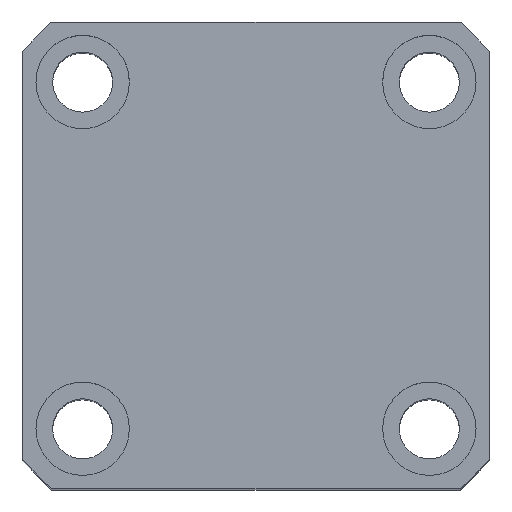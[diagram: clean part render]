
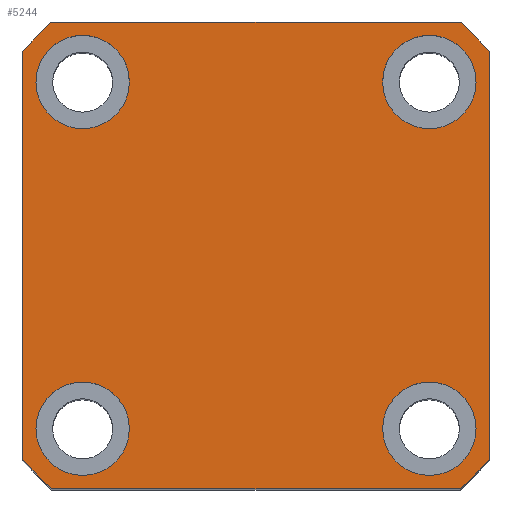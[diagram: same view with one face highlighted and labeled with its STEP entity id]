
A CAD part, top view. The second image highlights one B-rep face of the part: STEP entity #5244.
In plain terms, the highlighted planar face has unit normal (0, 0, 1).
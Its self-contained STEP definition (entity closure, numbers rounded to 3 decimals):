
#204 = ORIENTED_EDGE ( 'NONE', *, *, #13411, .F. ) ;
#652 = AXIS2_PLACEMENT_3D ( 'NONE', #951, #3151, #10570 ) ;
#663 = AXIS2_PLACEMENT_3D ( 'NONE', #7962, #1627, #9041 ) ;
#726 = CARTESIAN_POINT ( 'NONE',  ( 35., 30.615, 110. ) ) ;
#838 = DIRECTION ( 'NONE',  ( 1., 0., 0. ) ) ;
#845 = CARTESIAN_POINT ( 'NONE',  ( 30.615, -35., 110. ) ) ;
#849 = ORIENTED_EDGE ( 'NONE', *, *, #10498, .T. ) ;
#903 = CIRCLE ( 'NONE', #2556, 46.5 ) ;
#904 = DIRECTION ( 'NONE',  ( 0., 0., 1. ) ) ;
#951 = CARTESIAN_POINT ( 'NONE',  ( 0., 0., 110. ) ) ;
#1125 = VERTEX_POINT ( 'NONE', #11200 ) ;
#1141 = ORIENTED_EDGE ( 'NONE', *, *, #11758, .T. ) ;
#1166 = DIRECTION ( 'NONE',  ( 0., 0., 1. ) ) ;
#1378 = EDGE_LOOP ( 'NONE', ( #10425, #849, #1920, #10269, #1141, #12337, #13538, #8665 ) ) ;
#1489 = DIRECTION ( 'NONE',  ( -1., 0., 0. ) ) ;
#1627 = DIRECTION ( 'NONE',  ( 0., 0., 1. ) ) ;
#1692 = CARTESIAN_POINT ( 'NONE',  ( 19., 26., 110. ) ) ;
#1809 = DIRECTION ( 'NONE',  ( 0., 0., 1. ) ) ;
#1830 = CIRCLE ( 'NONE', #4391, 46.5 ) ;
#1837 = FACE_BOUND ( 'NONE', #2222, .T. ) ;
#1846 = CARTESIAN_POINT ( 'NONE',  ( 26., -26., 110. ) ) ;
#1850 = CARTESIAN_POINT ( 'NONE',  ( 0., 0., 110. ) ) ;
#1920 = ORIENTED_EDGE ( 'NONE', *, *, #9067, .T. ) ;
#2128 = VERTEX_POINT ( 'NONE', #5240 ) ;
#2222 = EDGE_LOOP ( 'NONE', ( #6417, #6752 ) ) ;
#2556 = AXIS2_PLACEMENT_3D ( 'NONE', #9270, #2922, #10354 ) ;
#2605 = LINE ( 'NONE', #8210, #10731 ) ;
#2697 = VERTEX_POINT ( 'NONE', #726 ) ;
#2767 = VERTEX_POINT ( 'NONE', #12977 ) ;
#2915 = DIRECTION ( 'NONE',  ( 1., 0., 0. ) ) ;
#2919 = DIRECTION ( 'NONE',  ( 1., 0., 0. ) ) ;
#2922 = DIRECTION ( 'NONE',  ( 0., 0., 1. ) ) ;
#2958 = AXIS2_PLACEMENT_3D ( 'NONE', #8144, #1809, #9219 ) ;
#3151 = DIRECTION ( 'NONE',  ( 0., 0., 1. ) ) ;
#3210 = EDGE_CURVE ( 'NONE', #7922, #8883, #13693, .T. ) ;
#3494 = CARTESIAN_POINT ( 'NONE',  ( 0., 0., 110. ) ) ;
#3771 = EDGE_LOOP ( 'NONE', ( #8583, #10761 ) ) ;
#3824 = EDGE_CURVE ( 'NONE', #5644, #13563, #7881, .T. ) ;
#3930 = CIRCLE ( 'NONE', #6140, 7. ) ;
#4008 = DIRECTION ( 'NONE',  ( 0., -1., 0. ) ) ;
#4212 = CARTESIAN_POINT ( 'NONE',  ( -35., -30.615, 110. ) ) ;
#4230 = DIRECTION ( 'NONE',  ( 0., 0., 1. ) ) ;
#4325 = CIRCLE ( 'NONE', #2958, 7. ) ;
#4391 = AXIS2_PLACEMENT_3D ( 'NONE', #1850, #9268, #2919 ) ;
#4534 = CARTESIAN_POINT ( 'NONE',  ( -26., 26., 110. ) ) ;
#4549 = DIRECTION ( 'NONE',  ( 1., 0., 0. ) ) ;
#4589 = ORIENTED_EDGE ( 'NONE', *, *, #5850, .F. ) ;
#4668 = FACE_BOUND ( 'NONE', #6221, .T. ) ;
#4903 = CIRCLE ( 'NONE', #12127, 7. ) ;
#5057 = ORIENTED_EDGE ( 'NONE', *, *, #8058, .F. ) ;
#5076 = VERTEX_POINT ( 'NONE', #9166 ) ;
#5240 = CARTESIAN_POINT ( 'NONE',  ( 33., 26., 110. ) ) ;
#5244 = ADVANCED_FACE ( 'NONE', ( #1837, #9995, #4668, #10314, #7124 ), #9495, .T. ) ;
#5509 = EDGE_CURVE ( 'NONE', #2767, #2697, #6655, .T. ) ;
#5581 = DIRECTION ( 'NONE',  ( 1., 0., 0. ) ) ;
#5644 = VERTEX_POINT ( 'NONE', #9006 ) ;
#5731 = CARTESIAN_POINT ( 'NONE',  ( -35., 35., 110. ) ) ;
#5749 = DIRECTION ( 'NONE',  ( 0., 0., 1. ) ) ;
#5850 = EDGE_CURVE ( 'NONE', #11735, #2128, #4325, .T. ) ;
#5870 = VECTOR ( 'NONE', #4008, 1000. ) ;
#5938 = EDGE_CURVE ( 'NONE', #8733, #6100, #1830, .T. ) ;
#6100 = VERTEX_POINT ( 'NONE', #11538 ) ;
#6140 = AXIS2_PLACEMENT_3D ( 'NONE', #1846, #9260, #2915 ) ;
#6221 = EDGE_LOOP ( 'NONE', ( #204, #4589 ) ) ;
#6325 = DIRECTION ( 'NONE',  ( 0., 1., 0. ) ) ;
#6417 = ORIENTED_EDGE ( 'NONE', *, *, #3824, .F. ) ;
#6483 = CARTESIAN_POINT ( 'NONE',  ( -33., 26., 110. ) ) ;
#6583 = VECTOR ( 'NONE', #1489, 1000. ) ;
#6655 = LINE ( 'NONE', #12012, #8811 ) ;
#6752 = ORIENTED_EDGE ( 'NONE', *, *, #8336, .F. ) ;
#7121 = AXIS2_PLACEMENT_3D ( 'NONE', #7510, #1166, #8587 ) ;
#7124 = FACE_OUTER_BOUND ( 'NONE', #1378, .T. ) ;
#7171 = DIRECTION ( 'NONE',  ( 0., 0., 1. ) ) ;
#7236 = CARTESIAN_POINT ( 'NONE',  ( 0., 0., 110. ) ) ;
#7510 = CARTESIAN_POINT ( 'NONE',  ( -26., -26., 110. ) ) ;
#7526 = CIRCLE ( 'NONE', #663, 7. ) ;
#7881 = CIRCLE ( 'NONE', #7121, 7. ) ;
#7922 = VERTEX_POINT ( 'NONE', #13533 ) ;
#7962 = CARTESIAN_POINT ( 'NONE',  ( 26., 26., 110. ) ) ;
#8025 = LINE ( 'NONE', #10373, #5870 ) ;
#8058 = EDGE_CURVE ( 'NONE', #10788, #13505, #11569, .T. ) ;
#8144 = CARTESIAN_POINT ( 'NONE',  ( 26., 26., 110. ) ) ;
#8210 = CARTESIAN_POINT ( 'NONE',  ( -35., -35., 110. ) ) ;
#8314 = DIRECTION ( 'NONE',  ( 1., 0., 0. ) ) ;
#8336 = EDGE_CURVE ( 'NONE', #13563, #5644, #4903, .T. ) ;
#8391 = AXIS2_PLACEMENT_3D ( 'NONE', #3494, #10922, #4549 ) ;
#8575 = CIRCLE ( 'NONE', #11866, 46.5 ) ;
#8583 = ORIENTED_EDGE ( 'NONE', *, *, #3210, .F. ) ;
#8587 = DIRECTION ( 'NONE',  ( 1., 0., 0. ) ) ;
#8611 = EDGE_CURVE ( 'NONE', #13505, #10788, #3930, .T. ) ;
#8665 = ORIENTED_EDGE ( 'NONE', *, *, #11423, .T. ) ;
#8703 = EDGE_CURVE ( 'NONE', #1125, #11349, #8575, .T. ) ;
#8733 = VERTEX_POINT ( 'NONE', #4212 ) ;
#8811 = VECTOR ( 'NONE', #6325, 1000. ) ;
#8883 = VERTEX_POINT ( 'NONE', #6483 ) ;
#9006 = CARTESIAN_POINT ( 'NONE',  ( -19., -26., 110. ) ) ;
#9041 = DIRECTION ( 'NONE',  ( 1., 0., 0. ) ) ;
#9067 = EDGE_CURVE ( 'NONE', #5076, #1125, #12523, .T. ) ;
#9166 = CARTESIAN_POINT ( 'NONE',  ( 30.615, 35., 110. ) ) ;
#9219 = DIRECTION ( 'NONE',  ( 1., 0., 0. ) ) ;
#9260 = DIRECTION ( 'NONE',  ( 0., 0., 1. ) ) ;
#9265 = AXIS2_PLACEMENT_3D ( 'NONE', #10595, #4230, #11650 ) ;
#9268 = DIRECTION ( 'NONE',  ( 0., 0., 1. ) ) ;
#9270 = CARTESIAN_POINT ( 'NONE',  ( 0., 0., 110. ) ) ;
#9409 = VERTEX_POINT ( 'NONE', #845 ) ;
#9495 = PLANE ( 'NONE',  #652 ) ;
#9602 = CARTESIAN_POINT ( 'NONE',  ( 33., -26., 110. ) ) ;
#9985 = EDGE_CURVE ( 'NONE', #6100, #9409, #2605, .T. ) ;
#9995 = FACE_BOUND ( 'NONE', #13550, .T. ) ;
#10051 = CIRCLE ( 'NONE', #8391, 46.5 ) ;
#10124 = CARTESIAN_POINT ( 'NONE',  ( -33., -26., 110. ) ) ;
#10269 = ORIENTED_EDGE ( 'NONE', *, *, #8703, .T. ) ;
#10314 = FACE_BOUND ( 'NONE', #3771, .T. ) ;
#10354 = DIRECTION ( 'NONE',  ( 1., 0., 0. ) ) ;
#10371 = DIRECTION ( 'NONE',  ( 1., 0., 0. ) ) ;
#10373 = CARTESIAN_POINT ( 'NONE',  ( -35., 35., 110. ) ) ;
#10425 = ORIENTED_EDGE ( 'NONE', *, *, #5509, .T. ) ;
#10498 = EDGE_CURVE ( 'NONE', #2697, #5076, #903, .T. ) ;
#10570 = DIRECTION ( 'NONE',  ( 1., 0., 0. ) ) ;
#10595 = CARTESIAN_POINT ( 'NONE',  ( 26., -26., 110. ) ) ;
#10731 = VECTOR ( 'NONE', #10371, 1000. ) ;
#10761 = ORIENTED_EDGE ( 'NONE', *, *, #12090, .F. ) ;
#10767 = CARTESIAN_POINT ( 'NONE',  ( -35., 30.615, 110. ) ) ;
#10784 = ORIENTED_EDGE ( 'NONE', *, *, #8611, .F. ) ;
#10788 = VERTEX_POINT ( 'NONE', #9602 ) ;
#10922 = DIRECTION ( 'NONE',  ( 0., 0., 1. ) ) ;
#11193 = CARTESIAN_POINT ( 'NONE',  ( 19., -26., 110. ) ) ;
#11200 = CARTESIAN_POINT ( 'NONE',  ( -30.615, 35., 110. ) ) ;
#11349 = VERTEX_POINT ( 'NONE', #10767 ) ;
#11423 = EDGE_CURVE ( 'NONE', #9409, #2767, #10051, .T. ) ;
#11430 = AXIS2_PLACEMENT_3D ( 'NONE', #13535, #7171, #838 ) ;
#11538 = CARTESIAN_POINT ( 'NONE',  ( -30.615, -35., 110. ) ) ;
#11569 = CIRCLE ( 'NONE', #9265, 7. ) ;
#11650 = DIRECTION ( 'NONE',  ( 1., 0., 0. ) ) ;
#11735 = VERTEX_POINT ( 'NONE', #1692 ) ;
#11758 = EDGE_CURVE ( 'NONE', #11349, #8733, #8025, .T. ) ;
#11866 = AXIS2_PLACEMENT_3D ( 'NONE', #7236, #904, #8314 ) ;
#11955 = DIRECTION ( 'NONE',  ( 0., 0., 1. ) ) ;
#11961 = AXIS2_PLACEMENT_3D ( 'NONE', #4534, #11955, #5581 ) ;
#12012 = CARTESIAN_POINT ( 'NONE',  ( 35., 35., 110. ) ) ;
#12090 = EDGE_CURVE ( 'NONE', #8883, #7922, #13315, .T. ) ;
#12113 = CARTESIAN_POINT ( 'NONE',  ( -26., -26., 110. ) ) ;
#12127 = AXIS2_PLACEMENT_3D ( 'NONE', #12113, #5749, #13161 ) ;
#12337 = ORIENTED_EDGE ( 'NONE', *, *, #5938, .T. ) ;
#12523 = LINE ( 'NONE', #5731, #6583 ) ;
#12977 = CARTESIAN_POINT ( 'NONE',  ( 35., -30.615, 110. ) ) ;
#13161 = DIRECTION ( 'NONE',  ( 1., 0., 0. ) ) ;
#13315 = CIRCLE ( 'NONE', #11430, 7. ) ;
#13411 = EDGE_CURVE ( 'NONE', #2128, #11735, #7526, .T. ) ;
#13505 = VERTEX_POINT ( 'NONE', #11193 ) ;
#13533 = CARTESIAN_POINT ( 'NONE',  ( -19., 26., 110. ) ) ;
#13535 = CARTESIAN_POINT ( 'NONE',  ( -26., 26., 110. ) ) ;
#13538 = ORIENTED_EDGE ( 'NONE', *, *, #9985, .T. ) ;
#13550 = EDGE_LOOP ( 'NONE', ( #5057, #10784 ) ) ;
#13563 = VERTEX_POINT ( 'NONE', #10124 ) ;
#13693 = CIRCLE ( 'NONE', #11961, 7. ) ;
